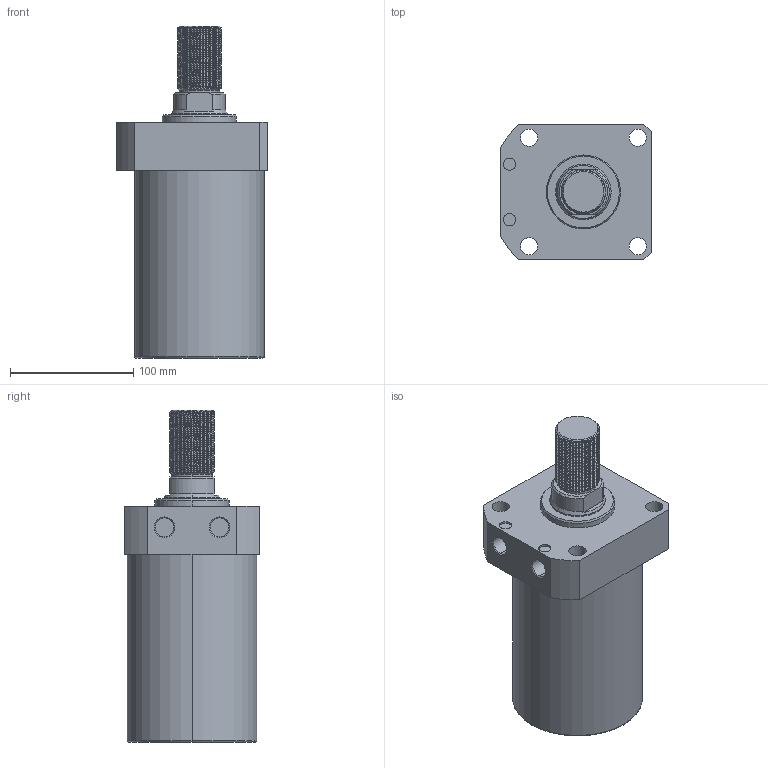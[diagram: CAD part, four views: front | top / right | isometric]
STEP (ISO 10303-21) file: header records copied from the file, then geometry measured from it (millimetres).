
FILE_DESCRIPTION (( 'STEP AP214' ), '1' );
FILE_NAME ('CLLR-105CT-105.STEP', '2020-01-10T05:53:10', ( 'Windows' ), ( 'Microsoft' ), 'SwSTEP 2.0', 'SolidWorks 2015', '' );
FILE_SCHEMA (( 'AUTOMOTIVE_DESIGN' ));
Length unit declared in the file: millimetre
Products named in the file (1): CLLR-105CT-105
Bounding box: 122 x 110 x 269 mm (x, y, z)
Volume: 1888896 mm3; surface area: 114139 mm2
Topology: 1 solids, 1 shells, 136 faces, 363 edges, 237 vertices
Faces by surface type: cylinder 97, plane 20, cone 15, torus 2, bspline 2
Entity records: 8227 total; most frequent: CARTESIAN_POINT 5103, ORIENTED_EDGE 726, DIRECTION 565, EDGE_CURVE 363, VERTEX_POINT 237, AXIS2_PLACEMENT_3D 216, EDGE_LOOP 152, FACE_OUTER_BOUND 136
